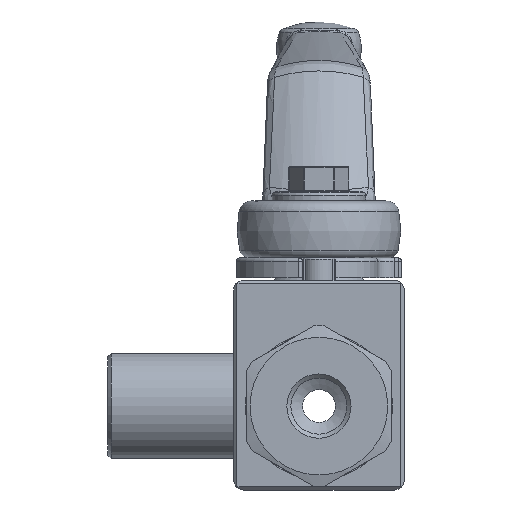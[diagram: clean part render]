
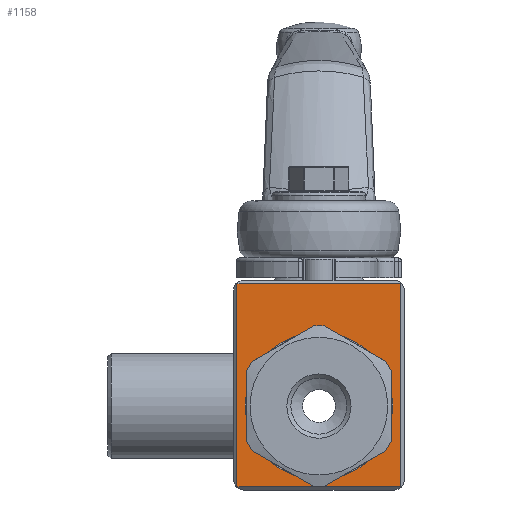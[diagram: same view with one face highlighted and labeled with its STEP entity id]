
A CAD part, front view. The second image highlights one B-rep face of the part: STEP entity #1158.
In plain terms, the highlighted planar face has unit normal (0, -1, 0).
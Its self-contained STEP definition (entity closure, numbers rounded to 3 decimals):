
#1158 = ADVANCED_FACE( '', ( #2329, #2330 ), #2331, .F. );
#2329 = FACE_BOUND( '', #4572, .T. );
#2330 = FACE_OUTER_BOUND( '', #4573, .T. );
#2331 = PLANE( '', #4574 );
#4572 = EDGE_LOOP( '', ( #7353 ) );
#4573 = EDGE_LOOP( '', ( #7354, #7355, #7356, #7357 ) );
#4574 = AXIS2_PLACEMENT_3D( '', #7358, #7359, #7360 );
#7353 = ORIENTED_EDGE( '', *, *, #8224, .T. );
#7354 = ORIENTED_EDGE( '', *, *, #9047, .T. );
#7355 = ORIENTED_EDGE( '', *, *, #9199, .T. );
#7356 = ORIENTED_EDGE( '', *, *, #8119, .T. );
#7357 = ORIENTED_EDGE( '', *, *, #9051, .T. );
#7358 = CARTESIAN_POINT( '', ( -13., -18.1, 19.2 ) );
#7359 = DIRECTION( '', ( 0., 1., 0. ) );
#7360 = DIRECTION( '', ( 0., 0., 1. ) );
#8119 = EDGE_CURVE( '', #9358, #9359, #9360, .T. );
#8224 = EDGE_CURVE( '', #9548, #9548, #9549, .T. );
#9047 = EDGE_CURVE( '', #10774, #10772, #10775, .T. );
#9051 = EDGE_CURVE( '', #9359, #10774, #10780, .T. );
#9199 = EDGE_CURVE( '', #10772, #9358, #10957, .T. );
#9358 = VERTEX_POINT( '', #11127 );
#9359 = VERTEX_POINT( '', #11128 );
#9360 = LINE( '', #11129, #11130 );
#9548 = VERTEX_POINT( '', #11486 );
#9549 = CIRCLE( '', #11487, 11.25 );
#10772 = VERTEX_POINT( '', #14006 );
#10774 = VERTEX_POINT( '', #14009 );
#10775 = LINE( '', #14010, #14011 );
#10780 = LINE( '', #14017, #14018 );
#10957 = LINE( '', #14274, #14275 );
#11127 = CARTESIAN_POINT( '', ( 12.5, -18.1, -12.3 ) );
#11128 = CARTESIAN_POINT( '', ( 12.5, -18.1, 18.7 ) );
#11129 = CARTESIAN_POINT( '', ( 12.5, -18.1, 19.2 ) );
#11130 = VECTOR( '', #14496, 1000. );
#11486 = CARTESIAN_POINT( '', ( 0., -18.1, -11.25 ) );
#11487 = AXIS2_PLACEMENT_3D( '', #14658, #14659, #14660 );
#14006 = CARTESIAN_POINT( '', ( -12.5, -18.1, -12.3 ) );
#14009 = CARTESIAN_POINT( '', ( -12.5, -18.1, 18.7 ) );
#14010 = CARTESIAN_POINT( '', ( -12.5, -18.1, 19.2 ) );
#14011 = VECTOR( '', #15749, 1000. );
#14017 = CARTESIAN_POINT( '', ( -13., -18.1, 18.7 ) );
#14018 = VECTOR( '', #15754, 1000. );
#14274 = CARTESIAN_POINT( '', ( -13., -18.1, -12.3 ) );
#14275 = VECTOR( '', #15910, 1000. );
#14496 = DIRECTION( '', ( 0., 0., 1. ) );
#14658 = CARTESIAN_POINT( '', ( 0., -18.1, 0. ) );
#14659 = DIRECTION( '', ( 0., 1., 0. ) );
#14660 = DIRECTION( '', ( 0., 0., -1. ) );
#15749 = DIRECTION( '', ( 0., 0., -1. ) );
#15754 = DIRECTION( '', ( -1., 0., 0. ) );
#15910 = DIRECTION( '', ( 1., 0., 0. ) );
